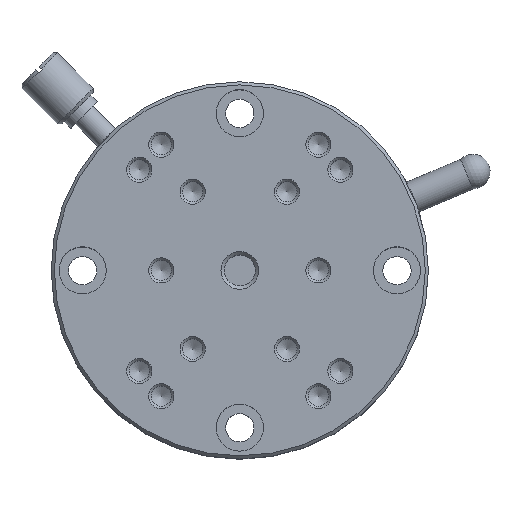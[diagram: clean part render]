
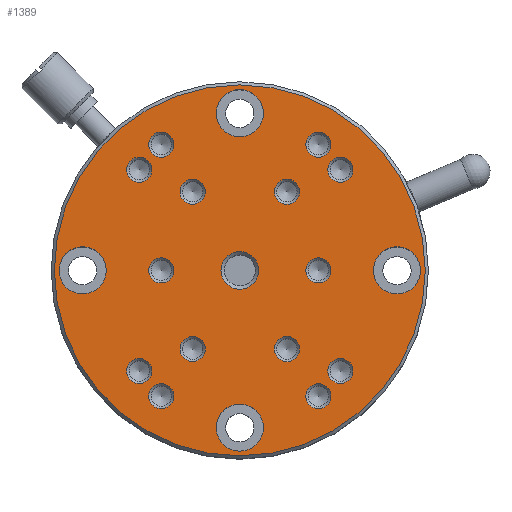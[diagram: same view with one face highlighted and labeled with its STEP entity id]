
A CAD part, top view. The second image highlights one B-rep face of the part: STEP entity #1389.
In plain terms, the highlighted planar face has unit normal (0, 0, 1).
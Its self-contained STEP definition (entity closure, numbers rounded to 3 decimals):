
#1145=CARTESIAN_POINT('',(0.,29.5,-0.5));
#1146=VERTEX_POINT('',#1145);
#1147=CARTESIAN_POINT('',(0.,0.,-0.5));
#1148=DIRECTION('',(0.,0.,-1.0));
#1149=DIRECTION('',(0.,1.0,0.));
#1150=AXIS2_PLACEMENT_3D('',#1147,#1148,#1149);
#1151=CIRCLE('',#1150,29.5);
#1152=EDGE_CURVE('',#1146,#1146,#1151,.T.);
#1172=CARTESIAN_POINT('',(-32.45,-32.45,-0.5));
#1173=DIRECTION('',(0.0,0.,-1.0));
#1174=DIRECTION('',(0.0,1.0,0.));
#1175=AXIS2_PLACEMENT_3D('',#1172,#1173,#1174);
#1176=PLANE('',#1175);
#1177=ORIENTED_EDGE('',*,*,#1152,.F.);
#1178=EDGE_LOOP('',(#1177));
#1179=FACE_OUTER_BOUND('',#1178,.T.);
#1180=CARTESIAN_POINT('',(28.75,0.,-0.5));
#1181=VERTEX_POINT('',#1180);
#1182=CARTESIAN_POINT('',(25.0,0.,-0.5));
#1183=DIRECTION('',(0.0,0.0,1.0));
#1184=DIRECTION('',(1.0,0.0,0.0));
#1185=AXIS2_PLACEMENT_3D('',#1182,#1183,#1184);
#1186=CIRCLE('',#1185,3.75);
#1187=EDGE_CURVE('',#1181,#1181,#1186,.T.);
#1188=ORIENTED_EDGE('',*,*,#1187,.F.);
#1189=EDGE_LOOP('',(#1188));
#1190=FACE_BOUND('',#1189,.T.);
#1191=CARTESIAN_POINT('',(12.5,2.,-0.5));
#1192=VERTEX_POINT('',#1191);
#1193=CARTESIAN_POINT('',(12.5,0.,-0.5));
#1194=DIRECTION('',(0.,0.,1.0));
#1195=DIRECTION('',(0.0,1.0,0.));
#1196=AXIS2_PLACEMENT_3D('',#1193,#1194,#1195);
#1197=CIRCLE('',#1196,2.0);
#1198=EDGE_CURVE('',#1192,#1192,#1197,.T.);
#1199=ORIENTED_EDGE('',*,*,#1198,.F.);
#1200=EDGE_LOOP('',(#1199));
#1201=FACE_BOUND('',#1200,.T.);
#1202=CARTESIAN_POINT('',(3.75,25.,-0.5));
#1203=VERTEX_POINT('',#1202);
#1204=CARTESIAN_POINT('',(0.,25.,-0.5));
#1205=DIRECTION('',(0.0,0.0,1.0));
#1206=DIRECTION('',(1.0,0.0,0.0));
#1207=AXIS2_PLACEMENT_3D('',#1204,#1205,#1206);
#1208=CIRCLE('',#1207,3.75);
#1209=EDGE_CURVE('',#1203,#1203,#1208,.T.);
#1210=ORIENTED_EDGE('',*,*,#1209,.F.);
#1211=EDGE_LOOP('',(#1210));
#1212=FACE_BOUND('',#1211,.T.);
#1213=CARTESIAN_POINT('',(-21.25,0.,-0.5));
#1214=VERTEX_POINT('',#1213);
#1215=CARTESIAN_POINT('',(-25.0,0.,-0.5));
#1216=DIRECTION('',(0.0,0.0,1.0));
#1217=DIRECTION('',(1.0,0.0,0.0));
#1218=AXIS2_PLACEMENT_3D('',#1215,#1216,#1217);
#1219=CIRCLE('',#1218,3.75);
#1220=EDGE_CURVE('',#1214,#1214,#1219,.T.);
#1221=ORIENTED_EDGE('',*,*,#1220,.F.);
#1222=EDGE_LOOP('',(#1221));
#1223=FACE_BOUND('',#1222,.T.);
#1224=CARTESIAN_POINT('',(3.75,-25.,-0.5));
#1225=VERTEX_POINT('',#1224);
#1226=CARTESIAN_POINT('',(0.,-25.,-0.5));
#1227=DIRECTION('',(0.0,0.0,1.0));
#1228=DIRECTION('',(1.0,0.0,0.0));
#1229=AXIS2_PLACEMENT_3D('',#1226,#1227,#1228);
#1230=CIRCLE('',#1229,3.75);
#1231=EDGE_CURVE('',#1225,#1225,#1230,.T.);
#1232=ORIENTED_EDGE('',*,*,#1231,.F.);
#1233=EDGE_LOOP('',(#1232));
#1234=FACE_BOUND('',#1233,.T.);
#1235=CARTESIAN_POINT('',(-12.5,22.,-0.5));
#1236=VERTEX_POINT('',#1235);
#1237=CARTESIAN_POINT('',(-12.5,20.,-0.5));
#1238=DIRECTION('',(0.,0.,-1.0));
#1239=DIRECTION('',(0.,1.0,0.));
#1240=AXIS2_PLACEMENT_3D('',#1237,#1238,#1239);
#1241=CIRCLE('',#1240,2.);
#1242=EDGE_CURVE('',#1236,#1236,#1241,.T.);
#1243=ORIENTED_EDGE('',*,*,#1242,.T.);
#1244=EDGE_LOOP('',(#1243));
#1245=FACE_BOUND('',#1244,.T.);
#1246=CARTESIAN_POINT('',(12.5,22.,-0.5));
#1247=VERTEX_POINT('',#1246);
#1248=CARTESIAN_POINT('',(12.5,20.,-0.5));
#1249=DIRECTION('',(0.,0.,-1.0));
#1250=DIRECTION('',(0.,1.0,0.));
#1251=AXIS2_PLACEMENT_3D('',#1248,#1249,#1250);
#1252=CIRCLE('',#1251,2.);
#1253=EDGE_CURVE('',#1247,#1247,#1252,.T.);
#1254=ORIENTED_EDGE('',*,*,#1253,.T.);
#1255=EDGE_LOOP('',(#1254));
#1256=FACE_BOUND('',#1255,.T.);
#1257=CARTESIAN_POINT('',(16.0,-14.,-0.5));
#1258=VERTEX_POINT('',#1257);
#1259=CARTESIAN_POINT('',(16.,-16.,-0.5));
#1260=DIRECTION('',(0.,0.,-1.0));
#1261=DIRECTION('',(0.,1.0,0.));
#1262=AXIS2_PLACEMENT_3D('',#1259,#1260,#1261);
#1263=CIRCLE('',#1262,2.);
#1264=EDGE_CURVE('',#1258,#1258,#1263,.T.);
#1265=ORIENTED_EDGE('',*,*,#1264,.T.);
#1266=EDGE_LOOP('',(#1265));
#1267=FACE_BOUND('',#1266,.T.);
#1268=CARTESIAN_POINT('',(-7.5,-10.5,-0.5));
#1269=VERTEX_POINT('',#1268);
#1270=CARTESIAN_POINT('',(-7.5,-12.5,-0.5));
#1271=DIRECTION('',(0.,0.,-1.0));
#1272=DIRECTION('',(0.,1.0,0.));
#1273=AXIS2_PLACEMENT_3D('',#1270,#1271,#1272);
#1274=CIRCLE('',#1273,2.);
#1275=EDGE_CURVE('',#1269,#1269,#1274,.T.);
#1276=ORIENTED_EDGE('',*,*,#1275,.T.);
#1277=EDGE_LOOP('',(#1276));
#1278=FACE_BOUND('',#1277,.T.);
#1279=CARTESIAN_POINT('',(-7.5,14.5,-0.5));
#1280=VERTEX_POINT('',#1279);
#1281=CARTESIAN_POINT('',(-7.5,12.5,-0.5));
#1282=DIRECTION('',(0.,0.,-1.0));
#1283=DIRECTION('',(0.,1.0,0.));
#1284=AXIS2_PLACEMENT_3D('',#1281,#1282,#1283);
#1285=CIRCLE('',#1284,2.0);
#1286=EDGE_CURVE('',#1280,#1280,#1285,.T.);
#1287=ORIENTED_EDGE('',*,*,#1286,.T.);
#1288=EDGE_LOOP('',(#1287));
#1289=FACE_BOUND('',#1288,.T.);
#1290=CARTESIAN_POINT('',(-16.0,-14.,-0.5));
#1291=VERTEX_POINT('',#1290);
#1292=CARTESIAN_POINT('',(-16.,-16.,-0.5));
#1293=DIRECTION('',(0.,0.,-1.0));
#1294=DIRECTION('',(0.0,1.0,0.));
#1295=AXIS2_PLACEMENT_3D('',#1292,#1293,#1294);
#1296=CIRCLE('',#1295,2.0);
#1297=EDGE_CURVE('',#1291,#1291,#1296,.T.);
#1298=ORIENTED_EDGE('',*,*,#1297,.T.);
#1299=EDGE_LOOP('',(#1298));
#1300=FACE_BOUND('',#1299,.T.);
#1301=CARTESIAN_POINT('',(16.0,18.,-0.5));
#1302=VERTEX_POINT('',#1301);
#1303=CARTESIAN_POINT('',(16.,16.,-0.5));
#1304=DIRECTION('',(0.,0.,-1.0));
#1305=DIRECTION('',(0.,1.0,0.));
#1306=AXIS2_PLACEMENT_3D('',#1303,#1304,#1305);
#1307=CIRCLE('',#1306,2.);
#1308=EDGE_CURVE('',#1302,#1302,#1307,.T.);
#1309=ORIENTED_EDGE('',*,*,#1308,.T.);
#1310=EDGE_LOOP('',(#1309));
#1311=FACE_BOUND('',#1310,.T.);
#1312=CARTESIAN_POINT('',(-16.0,18.,-0.5));
#1313=VERTEX_POINT('',#1312);
#1314=CARTESIAN_POINT('',(-16.,16.,-0.5));
#1315=DIRECTION('',(0.,0.,-1.0));
#1316=DIRECTION('',(0.0,1.0,0.));
#1317=AXIS2_PLACEMENT_3D('',#1314,#1315,#1316);
#1318=CIRCLE('',#1317,2.);
#1319=EDGE_CURVE('',#1313,#1313,#1318,.T.);
#1320=ORIENTED_EDGE('',*,*,#1319,.T.);
#1321=EDGE_LOOP('',(#1320));
#1322=FACE_BOUND('',#1321,.T.);
#1323=CARTESIAN_POINT('',(-12.5,-18.,-0.5));
#1324=VERTEX_POINT('',#1323);
#1325=CARTESIAN_POINT('',(-12.5,-20.,-0.5));
#1326=DIRECTION('',(0.,0.,-1.0));
#1327=DIRECTION('',(0.,1.0,0.));
#1328=AXIS2_PLACEMENT_3D('',#1325,#1326,#1327);
#1329=CIRCLE('',#1328,2.);
#1330=EDGE_CURVE('',#1324,#1324,#1329,.T.);
#1331=ORIENTED_EDGE('',*,*,#1330,.T.);
#1332=EDGE_LOOP('',(#1331));
#1333=FACE_BOUND('',#1332,.T.);
#1334=CARTESIAN_POINT('',(12.5,-18.,-0.5));
#1335=VERTEX_POINT('',#1334);
#1336=CARTESIAN_POINT('',(12.5,-20.,-0.5));
#1337=DIRECTION('',(0.,0.,-1.0));
#1338=DIRECTION('',(0.,1.0,0.));
#1339=AXIS2_PLACEMENT_3D('',#1336,#1337,#1338);
#1340=CIRCLE('',#1339,2.);
#1341=EDGE_CURVE('',#1335,#1335,#1340,.T.);
#1342=ORIENTED_EDGE('',*,*,#1341,.T.);
#1343=EDGE_LOOP('',(#1342));
#1344=FACE_BOUND('',#1343,.T.);
#1345=CARTESIAN_POINT('',(-12.5,2.,-0.5));
#1346=VERTEX_POINT('',#1345);
#1347=CARTESIAN_POINT('',(-12.5,0.,-0.5));
#1348=DIRECTION('',(0.,0.,-1.0));
#1349=DIRECTION('',(0.0,1.0,0.));
#1350=AXIS2_PLACEMENT_3D('',#1347,#1348,#1349);
#1351=CIRCLE('',#1350,2.0);
#1352=EDGE_CURVE('',#1346,#1346,#1351,.T.);
#1353=ORIENTED_EDGE('',*,*,#1352,.T.);
#1354=EDGE_LOOP('',(#1353));
#1355=FACE_BOUND('',#1354,.T.);
#1356=CARTESIAN_POINT('',(0.0,3.,-0.5));
#1357=VERTEX_POINT('',#1356);
#1358=CARTESIAN_POINT('',(0.,0.,-0.5));
#1359=DIRECTION('',(0.,0.,-1.0));
#1360=DIRECTION('',(0.,1.0,0.));
#1361=AXIS2_PLACEMENT_3D('',#1358,#1359,#1360);
#1362=CIRCLE('',#1361,3.0);
#1363=EDGE_CURVE('',#1357,#1357,#1362,.T.);
#1364=ORIENTED_EDGE('',*,*,#1363,.T.);
#1365=EDGE_LOOP('',(#1364));
#1366=FACE_BOUND('',#1365,.T.);
#1367=CARTESIAN_POINT('',(7.5,14.5,-0.5));
#1368=VERTEX_POINT('',#1367);
#1369=CARTESIAN_POINT('',(7.5,12.5,-0.5));
#1370=DIRECTION('',(0.,0.,-1.0));
#1371=DIRECTION('',(0.,1.0,0.));
#1372=AXIS2_PLACEMENT_3D('',#1369,#1370,#1371);
#1373=CIRCLE('',#1372,2.0);
#1374=EDGE_CURVE('',#1368,#1368,#1373,.T.);
#1375=ORIENTED_EDGE('',*,*,#1374,.T.);
#1376=EDGE_LOOP('',(#1375));
#1377=FACE_BOUND('',#1376,.T.);
#1378=CARTESIAN_POINT('',(7.5,-10.5,-0.5));
#1379=VERTEX_POINT('',#1378);
#1380=CARTESIAN_POINT('',(7.5,-12.5,-0.5));
#1381=DIRECTION('',(0.,0.,-1.0));
#1382=DIRECTION('',(0.,1.0,0.));
#1383=AXIS2_PLACEMENT_3D('',#1380,#1381,#1382);
#1384=CIRCLE('',#1383,2.);
#1385=EDGE_CURVE('',#1379,#1379,#1384,.T.);
#1386=ORIENTED_EDGE('',*,*,#1385,.T.);
#1387=EDGE_LOOP('',(#1386));
#1388=FACE_BOUND('',#1387,.T.);
#1389=ADVANCED_FACE('',(#1179,#1190,#1201,#1212,#1223,#1234,#1245,#1256,#1267,#1278,#1289,#1300,#1311,#1322,#1333,#1344,#1355,#1366,#1377,#1388),#1176,.F.);
